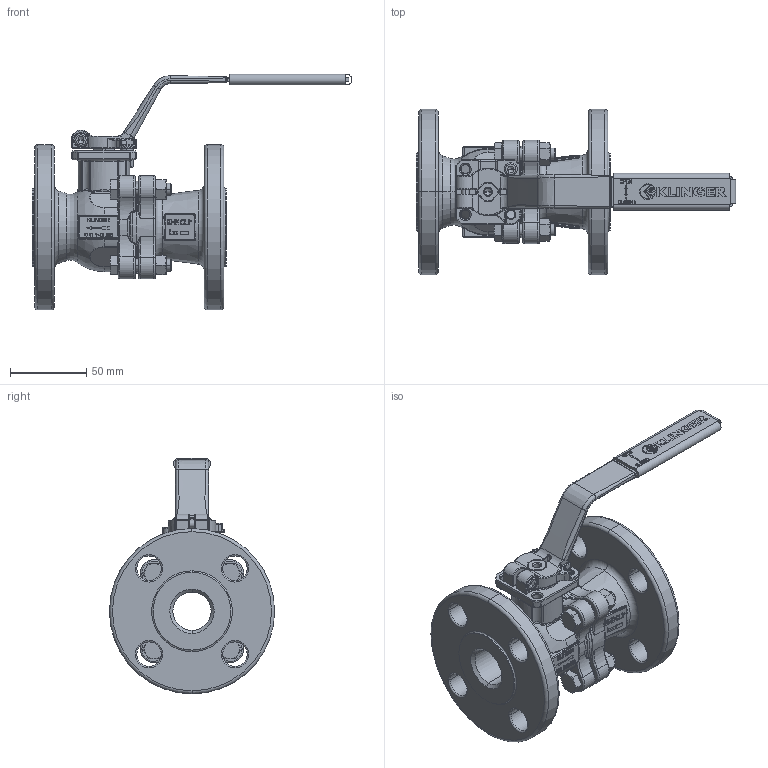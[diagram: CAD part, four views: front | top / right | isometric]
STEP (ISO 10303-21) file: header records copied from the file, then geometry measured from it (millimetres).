
FILE_DESCRIPTION((''),'2;1');
FILE_NAME('KHECL-1C150_XC','2016-08-29T',('santag'),('RAND'),'PRO/ENGINEER BY PARAMETRIC TECHNOLOGY CORPORATION, 2016100','PRO/ENGINEER BY PARAMETRIC TECHNOLOGY CORPORATION, 2016100','');
FILE_SCHEMA(('CONFIG_CONTROL_DESIGN'));
Products named in the file (1): KHECL-1C150_XC
Bounding box: 208.95 x 108 x 154.05 mm (x, y, z)
Volume: 436297.2 mm3; surface area: 125918.6 mm2
Topology: 1 solids, 1 shells, 3113 faces, 7987 edges, 4987 vertices
Faces by surface type: plane 1710, cylinder 502, torus 341, bspline 323, cone 196, sphere 41
Entity records: 125016 total; most frequent: CARTESIAN_POINT 51136, ORIENTED_EDGE 15946, DIRECTION 14630, EDGE_CURVE 7973, VERTEX_POINT 4987, VECTOR 4982, LINE 4982, AXIS2_PLACEMENT_3D 4824
